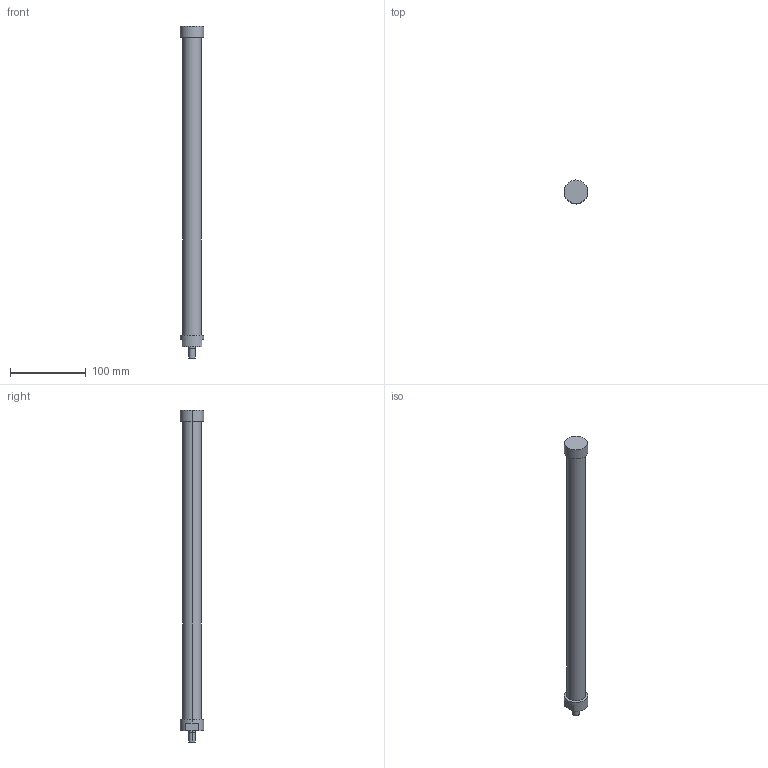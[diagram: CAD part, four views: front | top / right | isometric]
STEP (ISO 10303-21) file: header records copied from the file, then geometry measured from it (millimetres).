
FILE_DESCRIPTION(('STEP AP214'),'1');
FILE_NAME('ETT-R050M434.stp','2015-02-02T15:16:23',(' '),(' '),'Spatial InterOp 3D',' ',' ');
FILE_SCHEMA(('automotive_design'));
Length unit declared in the file: metre
Products named in the file (2): 1; 2
Bounding box: 31 x 31 x 439 mm (x, y, z)
Volume: 216228.8 mm3; surface area: 36537.9 mm2
Topology: 1 solids, 4 shells, 20 faces, 48 edges, 36 vertices
Faces by surface type: cylinder 10, plane 10
Entity records: 812 total; most frequent: DIRECTION 120, CARTESIAN_POINT 106, ORIENTED_EDGE 84, AXIS2_PLACEMENT_3D 50, EDGE_CURVE 48, VERTEX_POINT 36, CIRCLE 28, EDGE_LOOP 24
